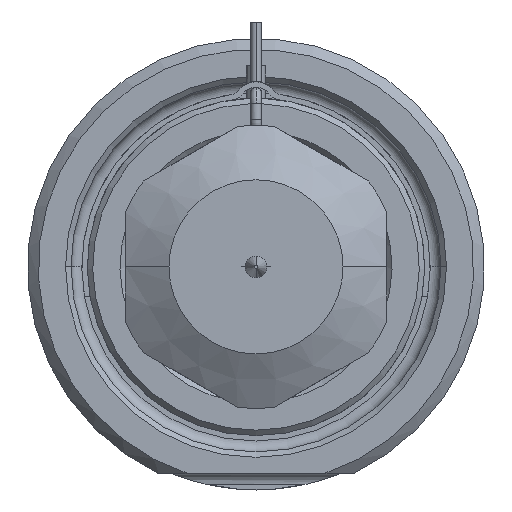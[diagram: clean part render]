
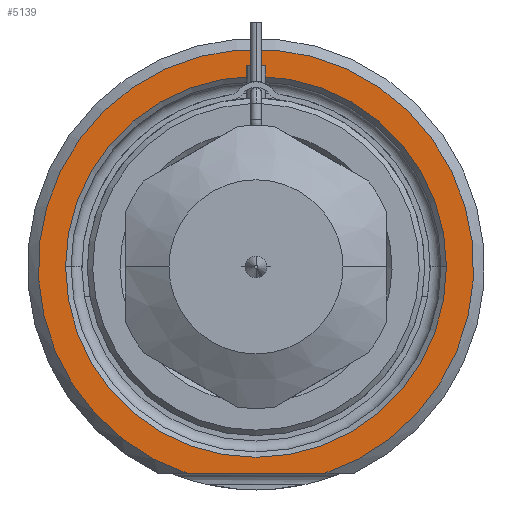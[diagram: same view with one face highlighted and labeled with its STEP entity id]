
A CAD part, front view. The second image highlights one B-rep face of the part: STEP entity #5139.
In plain terms, the highlighted planar face has unit normal (0, -1, 0).
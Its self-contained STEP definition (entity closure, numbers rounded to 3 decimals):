
#1310=CARTESIAN_POINT('',(0.,0.,0.));
#1311=DIRECTION('',(0.,-1.,0.));
#1312=DIRECTION('',(0.312,0.,-0.95));
#1313=AXIS2_PLACEMENT_3D('',#1310,#1311,#1312);
#1334=DIRECTION('',(1.,0.,0.));
#1335=VECTOR('',#1334,12.49);
#1336=CARTESIAN_POINT('',(-6.245,0.,-19.));
#1337=LINE('',#1336,#1335);
#1338=CARTESIAN_POINT('',(0.,0.,0.));
#1339=DIRECTION('',(0.,1.,0.));
#1340=DIRECTION('',(-1.,0.,0.));
#1341=AXIS2_PLACEMENT_3D('',#1338,#1339,#1340);
#1343=CARTESIAN_POINT('',(0.,0.,0.));
#1344=DIRECTION('',(0.,1.,0.));
#1345=DIRECTION('',(1.,0.,0.));
#1346=AXIS2_PLACEMENT_3D('',#1343,#1344,#1345);
#3371=CARTESIAN_POINT('',(-17.5,0.,0.));
#3372=CARTESIAN_POINT('',(17.5,0.,0.));
#3373=VERTEX_POINT('',#3371);
#3374=VERTEX_POINT('',#3372);
#3429=CARTESIAN_POINT('',(-6.245,0.,-19.));
#3430=CARTESIAN_POINT('',(6.245,0.,-19.));
#3431=VERTEX_POINT('',#3429);
#3432=VERTEX_POINT('',#3430);
#5124=CARTESIAN_POINT('',(0.,0.,0.));
#5125=DIRECTION('',(0.,-1.,0.));
#5126=DIRECTION('',(1.,0.,0.));
#5127=AXIS2_PLACEMENT_3D('',#5124,#5125,#5126);
#5128=PLANE('',#5127);
#5129=ORIENTED_EDGE('',*,*,#5056,.F.);
#5130=ORIENTED_EDGE('',*,*,#5116,.F.);
#5131=EDGE_LOOP('',(#5129,#5130));
#5132=FACE_OUTER_BOUND('',#5131,.F.);
#5134=ORIENTED_EDGE('',*,*,#5133,.F.);
#5136=ORIENTED_EDGE('',*,*,#5135,.F.);
#5137=EDGE_LOOP('',(#5134,#5136));
#5138=FACE_BOUND('',#5137,.F.);
#5139=ADVANCED_FACE('',(#5132,#5138),#5128,.T.);
#1314=CIRCLE('',#1313,20.);
#1342=CIRCLE('',#1341,17.5);
#1347=CIRCLE('',#1346,17.5);
#5056=EDGE_CURVE('',#3431,#3432,#1337,.T.);
#5116=EDGE_CURVE('',#3432,#3431,#1314,.T.);
#5133=EDGE_CURVE('',#3373,#3374,#1342,.T.);
#5135=EDGE_CURVE('',#3374,#3373,#1347,.T.);
